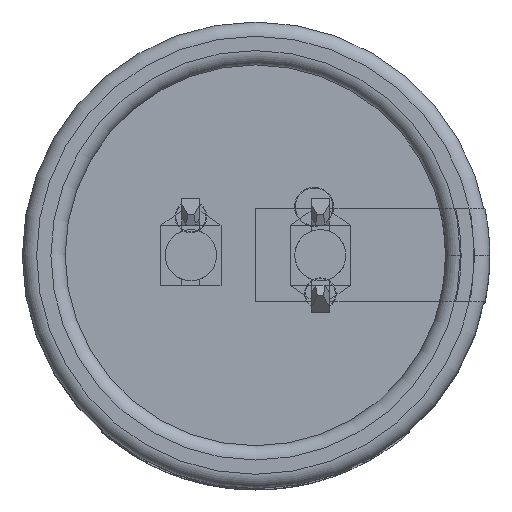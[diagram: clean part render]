
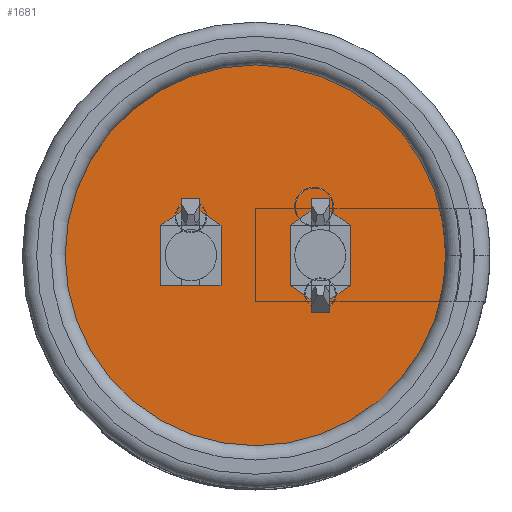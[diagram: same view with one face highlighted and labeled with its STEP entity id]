
A CAD part, top view. The second image highlights one B-rep face of the part: STEP entity #1681.
In plain terms, the highlighted planar face has unit normal (0, 0, 1).
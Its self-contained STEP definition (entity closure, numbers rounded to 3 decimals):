
#1588 = VERTEX_POINT('',#1589);
#1589 = CARTESIAN_POINT('',(12.65,0.,0.01));
#1596 = CYLINDRICAL_SURFACE('',#1597,12.65);
#1597 = AXIS2_PLACEMENT_3D('',#1598,#1599,#1600);
#1598 = CARTESIAN_POINT('',(0.,0.,0.));
#1599 = DIRECTION('',(0.,0.,-1.));
#1600 = DIRECTION('',(1.,0.,0.));
#1615 = EDGE_CURVE('',#1588,#1588,#1616,.T.);
#1616 = SURFACE_CURVE('',#1617,(#1622,#1629),.PCURVE_S1.);
#1617 = CIRCLE('',#1618,12.65);
#1618 = AXIS2_PLACEMENT_3D('',#1619,#1620,#1621);
#1619 = CARTESIAN_POINT('',(0.,0.,0.01));
#1620 = DIRECTION('',(0.,0.,1.));
#1621 = DIRECTION('',(1.,0.,0.));
#1622 = PCURVE('',#1596,#1623);
#1623 = DEFINITIONAL_REPRESENTATION('',(#1624),#1628);
#1624 = LINE('',#1625,#1626);
#1625 = CARTESIAN_POINT('',(0.,-0.01));
#1626 = VECTOR('',#1627,1.);
#1627 = DIRECTION('',(-1.,0.));
#1628 = ( GEOMETRIC_REPRESENTATION_CONTEXT(2) 
PARAMETRIC_REPRESENTATION_CONTEXT() REPRESENTATION_CONTEXT('2D SPACE',''
  ) );
#1629 = PCURVE('',#1630,#1635);
#1630 = PLANE('',#1631);
#1631 = AXIS2_PLACEMENT_3D('',#1632,#1633,#1634);
#1632 = CARTESIAN_POINT('',(12.65,0.,0.01));
#1633 = DIRECTION('',(0.,0.,-1.));
#1634 = DIRECTION('',(-1.,0.,0.));
#1635 = DEFINITIONAL_REPRESENTATION('',(#1636),#1644);
#1636 = ( BOUNDED_CURVE() B_SPLINE_CURVE(2,(#1637,#1638,#1639,#1640,
#1641,#1642,#1643),.UNSPECIFIED.,.F.,.F.) B_SPLINE_CURVE_WITH_KNOTS((1,2
    ,2,2,2,1),(-2.094,0.,2.094,4.189,
6.283,8.378),.UNSPECIFIED.) CURVE() 
GEOMETRIC_REPRESENTATION_ITEM() RATIONAL_B_SPLINE_CURVE((1.,0.5,1.,0.5,
1.,0.5,1.)) REPRESENTATION_ITEM('') );
#1637 = CARTESIAN_POINT('',(0.,0.));
#1638 = CARTESIAN_POINT('',(0.,21.91));
#1639 = CARTESIAN_POINT('',(18.975,10.955));
#1640 = CARTESIAN_POINT('',(37.95,0.));
#1641 = CARTESIAN_POINT('',(18.975,-10.955));
#1642 = CARTESIAN_POINT('',(0.,-21.91));
#1643 = CARTESIAN_POINT('',(0.,0.));
#1644 = ( GEOMETRIC_REPRESENTATION_CONTEXT(2) 
PARAMETRIC_REPRESENTATION_CONTEXT() REPRESENTATION_CONTEXT('2D SPACE',''
  ) );
#1681 = ADVANCED_FACE('',(#1682),#1630,.F.);
#1682 = FACE_BOUND('',#1683,.T.);
#1683 = EDGE_LOOP('',(#1684));
#1684 = ORIENTED_EDGE('',*,*,#1615,.T.);
